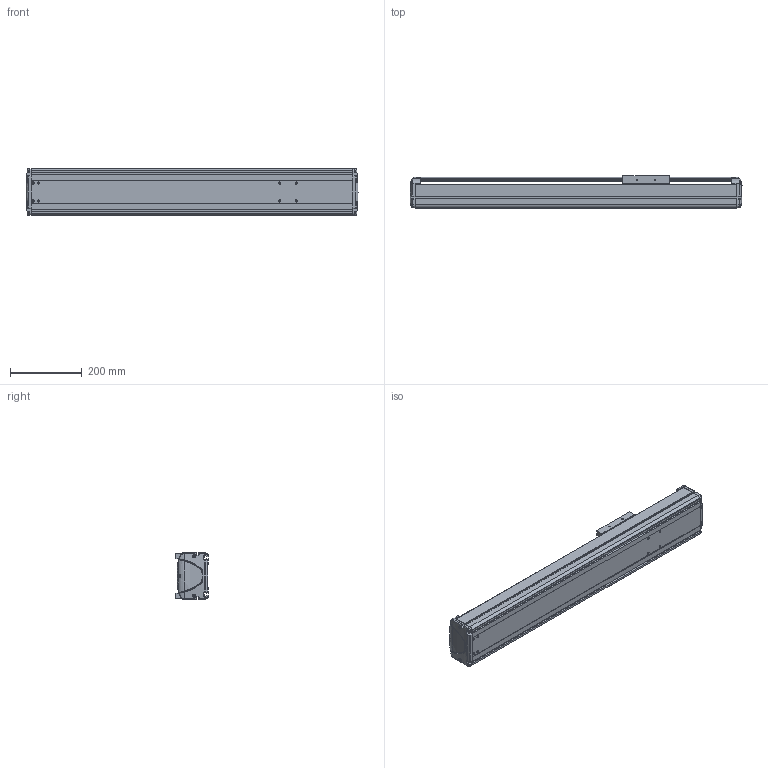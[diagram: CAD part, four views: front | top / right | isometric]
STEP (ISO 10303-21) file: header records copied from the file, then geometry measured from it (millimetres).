
FILE_DESCRIPTION((''),'2;1');
FILE_NAME('BE30E-ST-M_B-55_IGS_PRT','2017-06-17T',(' '),(''),'PRO/ENGINEER BY PARAMETRIC TECHNOLOGY CORPORATION, 2015030','PRO/ENGINEER BY PARAMETRIC TECHNOLOGY CORPORATION, 2015030','');
FILE_SCHEMA(('CONFIG_CONTROL_DESIGN'));
Length unit declared in the file: millimetre
Products named in the file (1): BE30E-ST-M_B-55_IGS_PRT
Bounding box: 925 x 89.8 x 130 mm (x, y, z)
Volume: 2841499.2 mm3; surface area: 1131843.5 mm2
Topology: 3 solids, 80 shells, 1312 faces, 3512 edges, 2294 vertices
Faces by surface type: plane 580, cylinder 575, bspline 55, torus 46, cone 32, sphere 24
Entity records: 43959 total; most frequent: CARTESIAN_POINT 11069, DIRECTION 6789, ORIENTED_EDGE 6663, EDGE_CURVE 3492, AXIS2_PLACEMENT_3D 2446, VERTEX_POINT 2294, VECTOR 1897, LINE 1897
